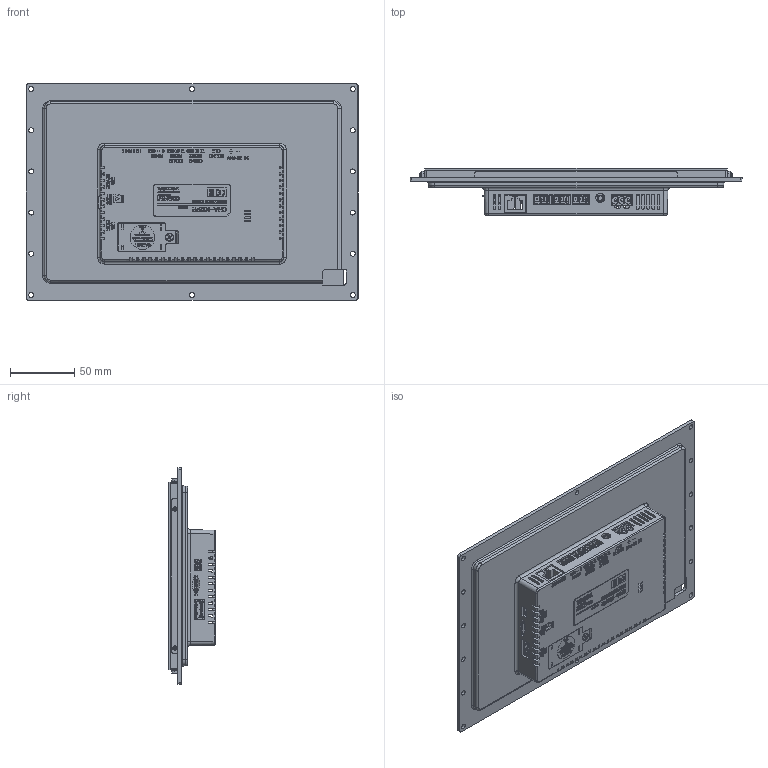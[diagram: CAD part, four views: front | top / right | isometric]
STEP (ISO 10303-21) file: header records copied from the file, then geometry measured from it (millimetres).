
FILE_DESCRIPTION (( 'STEP AP214' ), '1' );
FILE_NAME ('CHA-102PR_ASM_STEP颇老侩.STEP', '2019-10-21T07:06:03', ( 'luke' ), ( '' ), 'SwSTEP 2.0', 'SolidWorks 2016', '' );
FILE_SCHEMA (( 'AUTOMOTIVE_DESIGN' ));
Length unit declared in the file: millimetre
Products named in the file (1): CHA-102PR_ASM_STEP颇老侩
Bounding box: 258.09 x 36.8 x 168.09 mm (x, y, z)
Surface area: 163274.4 mm2 (no closed solid volume)
Topology: 0 solids, 101 shells, 1786 faces, 10661 edges, 8635 vertices
Faces by surface type: plane 1208, bspline 374, cylinder 153, cone 30, torus 18, sphere 3
Full cylindrical faces by diameter (mm): 0.6 x1, 1.5 x1, 1.601 x1, 2 x3, 3.4 x4, 3.6 x1, 5 x1, 7 x1
Entity records: 155528 total; most frequent: CARTESIAN_POINT 64888, ORIENTED_EDGE 13748, DIRECTION 10622, EDGE_CURVE 10583, VERTEX_POINT 8609, VECTOR 7168, LINE 7168, B_SPLINE_CURVE_WITH_KNOTS 2864
